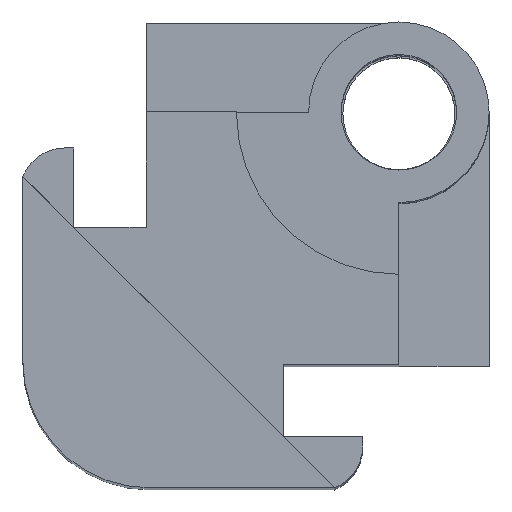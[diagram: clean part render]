
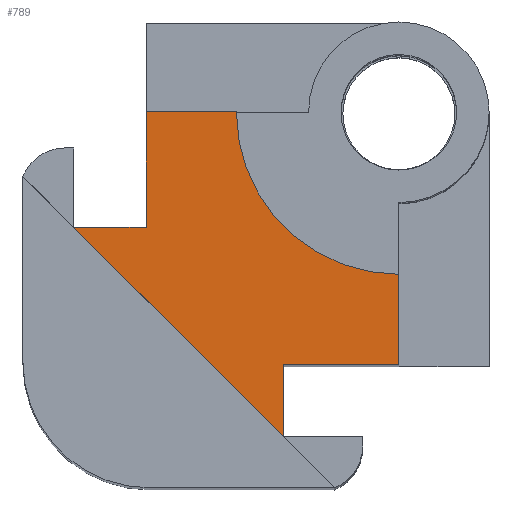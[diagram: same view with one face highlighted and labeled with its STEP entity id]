
A CAD part, top view. The second image highlights one B-rep face of the part: STEP entity #789.
In plain terms, the highlighted planar face has unit normal (0, 0, 1).
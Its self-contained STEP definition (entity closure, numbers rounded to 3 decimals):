
#70=FACE_OUTER_BOUND('',#119,.T.);
#119=EDGE_LOOP('',(#659,#660,#661,#662,#663,#664,#665,#666));
#153=CIRCLE('',#863,4.5);
#198=LINE('',#1243,#282);
#203=LINE('',#1251,#287);
#212=LINE('',#1270,#296);
#219=LINE('',#1289,#303);
#220=LINE('',#1291,#304);
#221=LINE('',#1292,#305);
#222=LINE('',#1293,#306);
#282=VECTOR('',#1014,10.);
#287=VECTOR('',#1021,10.);
#296=VECTOR('',#1040,10.);
#303=VECTOR('',#1061,10.);
#304=VECTOR('',#1062,10.);
#305=VECTOR('',#1063,10.);
#306=VECTOR('',#1064,10.);
#372=VERTEX_POINT('',#1241);
#373=VERTEX_POINT('',#1242);
#374=VERTEX_POINT('',#1249);
#375=VERTEX_POINT('',#1250);
#377=VERTEX_POINT('',#1263);
#380=VERTEX_POINT('',#1268);
#385=VERTEX_POINT('',#1288);
#386=VERTEX_POINT('',#1290);
#459=EDGE_CURVE('',#372,#373,#198,.T.);
#464=EDGE_CURVE('',#374,#375,#203,.T.);
#469=EDGE_CURVE('',#375,#372,#153,.T.);
#475=EDGE_CURVE('',#377,#380,#212,.F.);
#483=EDGE_CURVE('',#385,#380,#219,.F.);
#484=EDGE_CURVE('',#385,#386,#220,.F.);
#485=EDGE_CURVE('',#373,#386,#221,.F.);
#486=EDGE_CURVE('',#377,#374,#222,.F.);
#659=ORIENTED_EDGE('',*,*,#483,.F.);
#660=ORIENTED_EDGE('',*,*,#484,.T.);
#661=ORIENTED_EDGE('',*,*,#485,.F.);
#662=ORIENTED_EDGE('',*,*,#459,.F.);
#663=ORIENTED_EDGE('',*,*,#469,.F.);
#664=ORIENTED_EDGE('',*,*,#464,.F.);
#665=ORIENTED_EDGE('',*,*,#486,.F.);
#666=ORIENTED_EDGE('',*,*,#475,.T.);
#746=PLANE('',#873);
#789=ADVANCED_FACE('',(#70),#746,.T.);
#863=AXIS2_PLACEMENT_3D('',#1257,#1028,#1029);
#873=AXIS2_PLACEMENT_3D('',#1287,#1059,#1060);
#1014=DIRECTION('',(0.,-1.,0.));
#1021=DIRECTION('',(1.,0.,0.));
#1028=DIRECTION('center_axis',(0.,0.,1.));
#1029=DIRECTION('ref_axis',(1.,0.,0.));
#1040=DIRECTION('',(1.,0.,0.));
#1059=DIRECTION('center_axis',(0.,0.,1.));
#1060=DIRECTION('ref_axis',(1.,0.,0.));
#1061=DIRECTION('',(0.707,-0.707,0.));
#1062=DIRECTION('',(0.,-1.,0.));
#1063=DIRECTION('',(1.,0.,0.));
#1064=DIRECTION('',(0.,-1.,0.));
#1241=CARTESIAN_POINT('',(8.482,3.998,2.));
#1242=CARTESIAN_POINT('',(8.482,1.498,2.));
#1243=CARTESIAN_POINT('',(8.482,3.498,2.));
#1249=CARTESIAN_POINT('',(1.482,8.498,2.));
#1250=CARTESIAN_POINT('',(3.982,8.498,2.));
#1251=CARTESIAN_POINT('',(4.103,8.498,2.));
#1257=CARTESIAN_POINT('Origin',(8.482,8.498,2.));
#1263=CARTESIAN_POINT('',(1.482,5.298,2.));
#1268=CARTESIAN_POINT('',(-0.518,5.298,2.));
#1270=CARTESIAN_POINT('',(3.853,5.298,2.));
#1287=CARTESIAN_POINT('Origin',(4.224,2.998,2.));
#1288=CARTESIAN_POINT('',(5.282,-0.501,2.));
#1289=CARTESIAN_POINT('',(2.692,2.088,2.));
#1290=CARTESIAN_POINT('',(5.282,1.498,2.));
#1291=CARTESIAN_POINT('',(5.282,3.248,2.));
#1292=CARTESIAN_POINT('',(4.603,1.498,2.));
#1293=CARTESIAN_POINT('',(1.482,3.998,2.));
